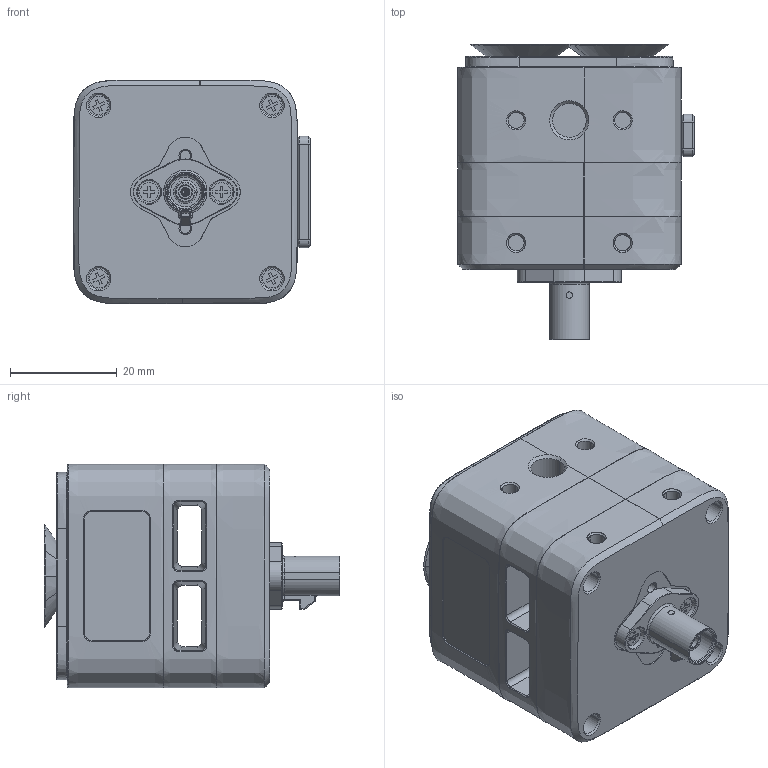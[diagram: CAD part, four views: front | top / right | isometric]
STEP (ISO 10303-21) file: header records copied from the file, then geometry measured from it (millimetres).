
FILE_DESCRIPTION((''),'2;1');
FILE_NAME('G305G','2026-03-03T16:50:28',('yuxingchen'),(''),'CREO PARAMETRIC BY PTC INC, 2025102','CREO PARAMETRIC BY PTC INC, 2025102','');
FILE_SCHEMA(('CONFIG_CONTROL_DESIGN','SHAPE_APPEARANCE_LAYERS_GROUPS'));
Products named in the file (1): G305G
Bounding box: 44.5 x 55.41 x 42 mm (x, y, z)
Surface area: 21743.5 mm2 (no closed solid volume)
Topology: 0 solids, 41 shells, 2563 faces, 6829 edges, 4317 vertices
Faces by surface type: plane 1503, cylinder 593, cone 196, bspline 135, torus 111, extrusion 13, sphere 12
Entity records: 130363 total; most frequent: CARTESIAN_POINT 29700, ORIENTED_EDGE 13476, DIRECTION 12892, PRESENTATION_STYLE_ASSIGNMENT 9181, STYLED_ITEM 6846, CURVE_STYLE 6822, EDGE_CURVE 6809, VECTOR 4692
